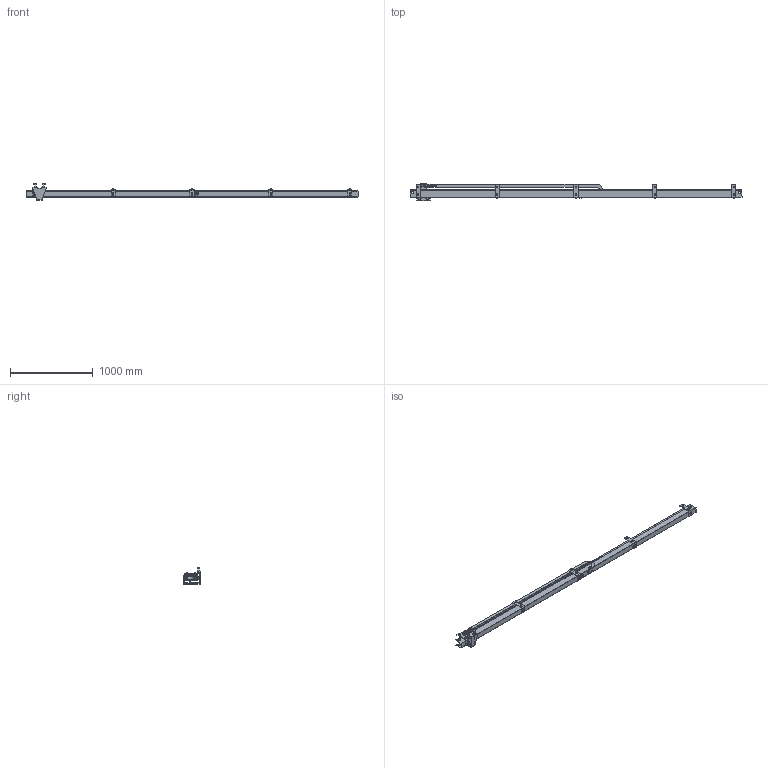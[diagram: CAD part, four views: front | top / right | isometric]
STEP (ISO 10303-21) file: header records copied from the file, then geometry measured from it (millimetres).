
FILE_DESCRIPTION (( 'STEP AP203' ), '1' );
FILE_NAME ('900.040.060.4000.STEP', '2018-02-27T08:30:39', ( '' ), ( '' ), 'SwSTEP 2.0', 'SolidWorks 2016', '' );
FILE_SCHEMA (( 'CONFIG_CONTROL_DESIGN' ));
Length unit declared in the file: millimetre
Products named in the file (20): A325LK-1; DADO ESAGONALE M20 AUTOBLOCCANTE_M20 UNI7473; SR325LI0400604000-L; A325LK-4; 084.302.000 DADI ALUSIC 13x13-1_084.302.009; RONDELLE UNI 6592_8.4x17 UNI 6592; 900.040.060.102; 084.301.000 VITI ALUSIC_084.301.001; RONDELLE UNI 6592_6.4x12.5 UNI 6592; 900.040.060.4000; A325LK-3; 900.040.060.4000-L; VITI TESTA BOMBATA ISO 730 INOX_M6x20 ISO 7380 INOX; VITI TE UNI 5739_M20X60 UNI 5739; 900.040.060.101_Default<A macchina>; SR325LI0400604000; 084.301.000 VITI ALUSIC_084.301.011; 084.301.000 VITI ALUSIC_084.301.003; A325LK-2; DADI ESAGONALI AUTOBLOCCANTI UNI 7473_M6 UNI 7473
Assembly tree (119 placements, depth 3):
  900.040.060.4000
    900.040.060.101_Default<A macchina>
    900.040.060.102  x5
    900.040.060.4000-L
    VITI TE UNI 5739_M20X60 UNI 5739  x2
    DADO ESAGONALE M20 AUTOBLOCCANTE_M20 UNI7473  x2
    084.302.000 DADI ALUSIC 13x13-1_084.302.009  x10
    VITI TESTA BOMBATA ISO 730 INOX_M6x20 ISO 7380 INOX  x10
    RONDELLE UNI 6592_6.4x12.5 UNI 6592  x36
    DADI ESAGONALI AUTOBLOCCANTI UNI 7473_M6 UNI 7473  x18
    084.301.000 VITI ALUSIC_084.301.011  x4
    084.301.000 VITI ALUSIC_084.301.001  x4
    SR325LI0400604000
      SR325LI0400604000-L
      A325LK-1
      A325LK-2
      A325LK-3
      A325LK-4
    RONDELLE UNI 6592_8.4x17 UNI 6592  x10
    084.301.000 VITI ALUSIC_084.301.003  x10
Bounding box: 4000 x 211.1 x 198.33 mm (x, y, z)
Volume: 4686716.4 mm3; surface area: 3079185.8 mm2
Topology: 130 solids, 130 shells, 3383 faces, 8416 edges, 5329 vertices
Faces by surface type: plane 1516, cylinder 1213, cone 344, bspline 174, torus 136
Entity records: 80539 total; most frequent: CARTESIAN_POINT 31114, ORIENTED_EDGE 9938, DIRECTION 8475, EDGE_CURVE 4969, VERTEX_POINT 3202, AXIS2_PLACEMENT_3D 2872, VECTOR 2731, LINE 2731
